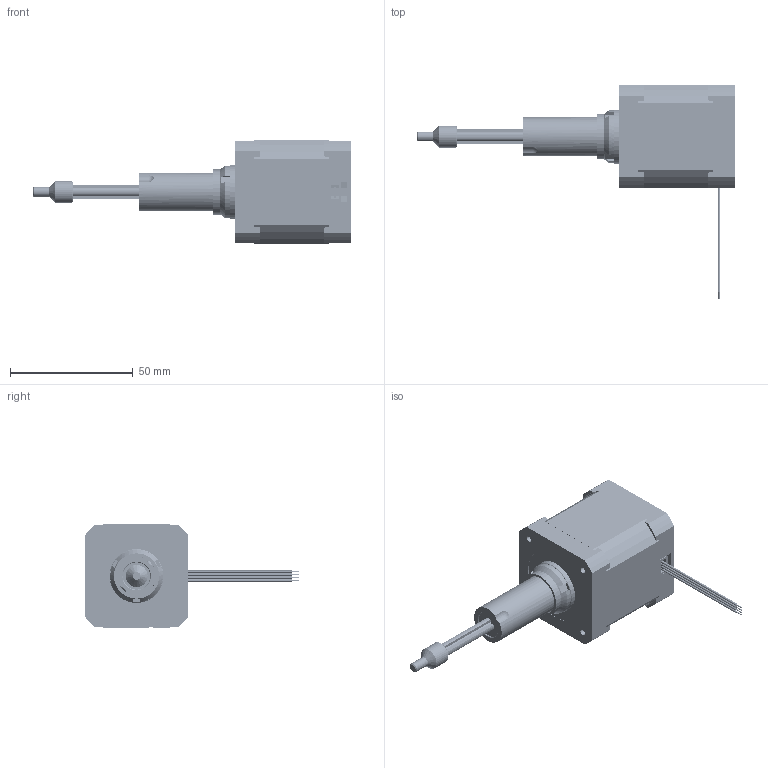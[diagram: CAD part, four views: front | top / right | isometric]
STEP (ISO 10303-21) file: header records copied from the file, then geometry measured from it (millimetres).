
FILE_DESCRIPTION((''),'2;1');
FILE_NAME('42CC4X-X-XXX-XXX_ASM','2023-03-24T',('guangyan.zhou'),(''),'CREO PARAMETRIC BY PTC INC, 2017300','CREO PARAMETRIC BY PTC INC, 2017300','');
FILE_SCHEMA(('CONFIG_CONTROL_DESIGN'));
Products named in the file (150): EB42-1003_AF0; ST42-1003_AF61; ST42-1003_AF62; ST42-1003_AF63; ST42-1003_AF64; ST42-1003_AF65; ST42-1003_AF66; ST42-1003_AF67; ST42-1003_AF68; ST42-1003_AF69; ST42-1003_AF70; ST42-1003_AF71; ST42-1003_AF72; ST42-1003_AF73; ST42-1003_AF74; ST42-1003_AF75; ST42-1003_AF76; ST42-1003_AF77; ST42-1003_AF78; ST42-1003_AF79; ST42-1003_AF80; ST42-1003_AF81; ST42-1003_AF82; ST42-1003_AF83; ST42-1003_AF84; ST42-1003_AF85; ST42-1003_AF86; ST42-1003_AF87; ST42-1003_AF88; ST42-1003_AF89; ST42-1003_AF90; ST42-1003_AF91; ST42-1003_AF92; ST42-1003_AF93; ST42-1003_AF94; ST42-1003_AF95; ST42-1003_AF96; ST42-1003_AF97; ST42-1003_AF98; ST42-1003_AF99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
Assembly tree (151 placements, depth 4):
  42CC4X-X-XXX-XXX_ASM
    EB42-1003_AF0
    ST42-1004_AF0_ASM
      ST42-1005_AF0_ASM
        ST42-1003_AF61
        ST42-1003_AF62
        ST42-1003_AF63
        ST42-1003_AF64
        ST42-1003_AF65
        ST42-1003_AF66
        ST42-1003_AF67
        ST42-1003_AF68
        ST42-1003_AF69
        ST42-1003_AF70
        ST42-1003_AF71
        ST42-1003_AF72
        ST42-1003_AF73
        ST42-1003_AF74
        ST42-1003_AF75
        ST42-1003_AF76
        ST42-1003_AF77
        ST42-1003_AF78
        ST42-1003_AF79
        ST42-1003_AF80
        ST42-1003_AF81
        ST42-1003_AF82
        ST42-1003_AF83
        ST42-1003_AF84
        ST42-1003_AF85
        ST42-1003_AF86
        ST42-1003_AF87
        ST42-1003_AF88
        ST42-1003_AF89
        ST42-1003_AF90
        ST42-1003_AF91
        ST42-1003_AF92
        ST42-1003_AF93
        ST42-1003_AF94
        ST42-1003_AF95
        ST42-1003_AF96
        ST42-1003_AF97
        ST42-1003_AF98
        ST42-1003_AF99
        ST42-1003_AF100
        ST42-1003_AF101
        ST42-1003_AF102
        ST42-1003_AF103
        ST42-1003_AF104
        ST42-1003_AF105
        ST42-1003_AF106
        ST42-1003_AF107
        ST42-1003_AF108
        ST42-1003_AF109
        ST42-1003_AF110
        ST42-1003_AF111
        ST42-1003_AF112
        ST42-1003_AF113
        ST42-1003_AF114
        ST42-1003_AF115
        ST42-1003_AF116
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Bounding box: 130.1 x 87.45 x 42.2 mm (x, y, z)
Volume: 32216.5 mm3; surface area: 84563 mm2
Topology: 117 solids, 133 shells, 6672 faces, 19014 edges, 12640 vertices
Faces by surface type: cylinder 3147, plane 2647, extrusion 727, bspline 79, torus 32, cone 30, sphere 10
Entity records: 254981 total; most frequent: CARTESIAN_POINT 72104, ORIENTED_EDGE 37958, DIRECTION 36639, EDGE_CURVE 19008, VERTEX_POINT 12640, AXIS2_PLACEMENT_3D 12581, VECTOR 11477, LINE 10750
